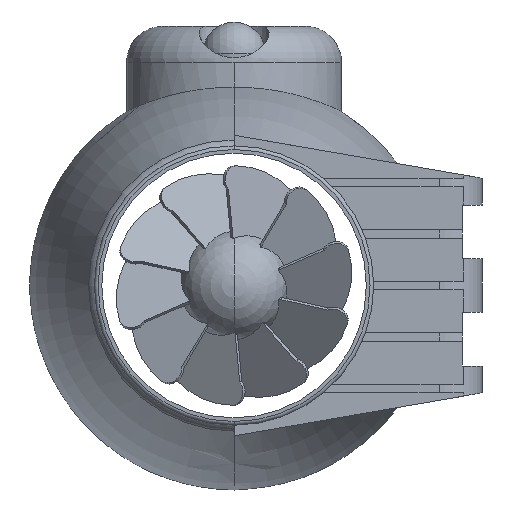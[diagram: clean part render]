
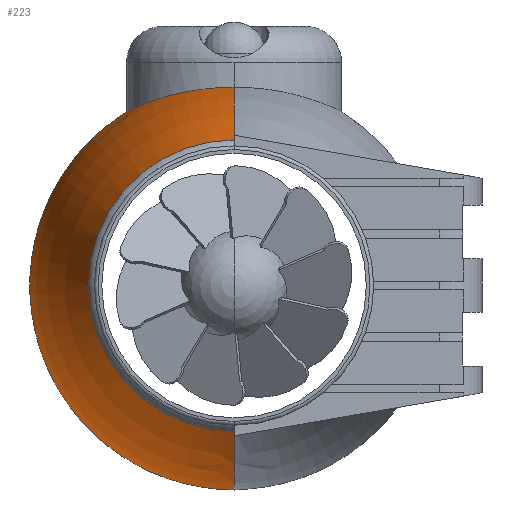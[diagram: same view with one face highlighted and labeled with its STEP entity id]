
A CAD part, left-side view. The second image highlights one B-rep face of the part: STEP entity #223.
In plain terms, the highlighted toroidal (fillet/blend) face has major radius 403.834 mm and minor radius 514.335 mm.
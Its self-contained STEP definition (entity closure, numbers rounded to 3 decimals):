
#223=ADVANCED_FACE('',(#623),#624,.T.);
#623=FACE_OUTER_BOUND('',#1212,.T.);
#624=TOROIDAL_SURFACE('',#1213,-403.834,514.334);
#1212=EDGE_LOOP('',(#1826,#1827,#1828,#1829,#1830,#1831,#1832,#1833));
#1213=AXIS2_PLACEMENT_3D('',#1834,#1835,#1836);
#1826=ORIENTED_EDGE('',*,*,#3671,.F.);
#1827=ORIENTED_EDGE('',*,*,#3672,.T.);
#1828=ORIENTED_EDGE('',*,*,#3673,.T.);
#1829=ORIENTED_EDGE('',*,*,#3674,.F.);
#1830=ORIENTED_EDGE('',*,*,#3666,.F.);
#1831=ORIENTED_EDGE('',*,*,#3665,.F.);
#1832=ORIENTED_EDGE('',*,*,#3675,.F.);
#1833=ORIENTED_EDGE('',*,*,#3676,.T.);
#1834=CARTESIAN_POINT('',(0.0,0.0,0.0));
#1835=DIRECTION('',(-1.0,0.0,0.));
#1836=DIRECTION('',(0.,0.0,1.0));
#3665=EDGE_CURVE('',#4419,#4422,#4423,.T.);
#3666=EDGE_CURVE('',#4422,#4424,#4425,.T.);
#3671=EDGE_CURVE('',#4432,#4433,#4434,.T.);
#3672=EDGE_CURVE('',#4432,#4435,#4436,.T.);
#3673=EDGE_CURVE('',#4435,#4437,#4438,.T.);
#3674=EDGE_CURVE('',#4424,#4437,#4439,.T.);
#3675=EDGE_CURVE('',#4440,#4419,#4441,.T.);
#3676=EDGE_CURVE('',#4440,#4433,#4442,.T.);
#4419=VERTEX_POINT('',#5530);
#4422=VERTEX_POINT('',#5533);
#4423=CIRCLE('',#5534,78.663);
#4424=VERTEX_POINT('',#5535);
#4425=CIRCLE('',#5536,78.663);
#4432=VERTEX_POINT('',#5543);
#4433=VERTEX_POINT('',#5544);
#4434=CIRCLE('',#5545,514.334);
#4435=VERTEX_POINT('',#5546);
#4436=CIRCLE('',#5547,78.663);
#4437=VERTEX_POINT('',#5548);
#4438=CIRCLE('',#5549,78.663);
#4439=CIRCLE('',#5550,514.334);
#4440=VERTEX_POINT('',#5551);
#4441=CIRCLE('',#5552,514.334);
#4442=B_SPLINE_CURVE_WITH_KNOTS('',3,(#5553,#5554,#5555,#5556,#5557,#5558,#5559,#5560,#5561,#5562,#5563,#5564,#5565,#5566,#5567,#5568,#5569,#5570,#5571,#5572,#5573,#5574,#5575,#5576,#5577,#5578,#5579,#5580,#5581,#5582,#5583,#5584,#5585,#5586,#5587,#5588,#5589,#5590,#5591,#5592,#5593,#5594,#5595,#5596,#5597,#5598,#5599,#5600,#5601,#5602,#5603,#5604,#5605,#5606,#5607,#5608,#5609,#5610),.UNSPECIFIED.,.F.,.F.,(4,3,3,3,3,3,3,3,3,3,3,3,3,3,3,3,3,3,3,4),(-185.079,-174.942,-168.82,-157.966,-150.418,-138.395,-127.341,-111.424,-105.042,-98.882,-89.816,-83.556,-73.998,-61.856,-47.893,-35.233,-23.073,-15.223,-5.533,-0.0),.UNSPECIFIED.);
#5530=CARTESIAN_POINT('',(-178.146,0.,78.663));
#5533=CARTESIAN_POINT('',(-178.146,78.663,0.));
#5534=AXIS2_PLACEMENT_3D('',#7323,#7324,#7325);
#5535=CARTESIAN_POINT('',(-178.146,0.,-78.663));
#5536=AXIS2_PLACEMENT_3D('',#7326,#7327,#7328);
#5543=CARTESIAN_POINT('',(178.146,0.,78.663));
#5544=CARTESIAN_POINT('',(58.08,0.0,107.21));
#5545=AXIS2_PLACEMENT_3D('',#7338,#7339,#7340);
#5546=CARTESIAN_POINT('',(178.146,78.663,0.));
#5547=AXIS2_PLACEMENT_3D('',#7341,#7342,#7343);
#5548=CARTESIAN_POINT('',(178.146,0.,-78.663));
#5549=AXIS2_PLACEMENT_3D('',#7344,#7345,#7346);
#5550=AXIS2_PLACEMENT_3D('',#7347,#7348,#7349);
#5551=CARTESIAN_POINT('',(-58.08,0.,107.21));
#5552=AXIS2_PLACEMENT_3D('',#7350,#7351,#7352);
#5553=CARTESIAN_POINT('',(-58.08,0.,107.21));
#5554=CARTESIAN_POINT('',(-58.08,3.378,107.21));
#5555=CARTESIAN_POINT('',(-57.784,6.754,107.083));
#5556=CARTESIAN_POINT('',(-57.2,10.07,106.836));
#5557=CARTESIAN_POINT('',(-56.848,12.073,106.687));
#5558=CARTESIAN_POINT('',(-56.39,14.055,106.494));
#5559=CARTESIAN_POINT('',(-55.833,15.998,106.263));
#5560=CARTESIAN_POINT('',(-54.846,19.442,105.854));
#5561=CARTESIAN_POINT('',(-53.547,22.773,105.322));
#5562=CARTESIAN_POINT('',(-51.958,25.955,104.7));
#5563=CARTESIAN_POINT('',(-50.853,28.167,104.267));
#5564=CARTESIAN_POINT('',(-49.607,30.306,103.79));
#5565=CARTESIAN_POINT('',(-48.236,32.351,103.285));
#5566=CARTESIAN_POINT('',(-46.051,35.608,102.481));
#5567=CARTESIAN_POINT('',(-43.544,38.632,101.602));
#5568=CARTESIAN_POINT('',(-40.764,41.371,100.716));
#5569=CARTESIAN_POINT('',(-38.208,43.889,99.901));
#5570=CARTESIAN_POINT('',(-35.42,46.17,99.079));
#5571=CARTESIAN_POINT('',(-32.436,48.179,98.305));
#5572=CARTESIAN_POINT('',(-28.139,51.071,97.19));
#5573=CARTESIAN_POINT('',(-23.449,53.394,96.177));
#5574=CARTESIAN_POINT('',(-18.477,55.062,95.421));
#5575=CARTESIAN_POINT('',(-16.484,55.731,95.117));
#5576=CARTESIAN_POINT('',(-14.447,56.294,94.856));
#5577=CARTESIAN_POINT('',(-12.384,56.744,94.644));
#5578=CARTESIAN_POINT('',(-10.393,57.179,94.439));
#5579=CARTESIAN_POINT('',(-8.373,57.51,94.28));
#5580=CARTESIAN_POINT('',(-6.337,57.733,94.173));
#5581=CARTESIAN_POINT('',(-3.339,58.062,94.014));
#5582=CARTESIAN_POINT('',(-0.322,58.157,93.968));
#5583=CARTESIAN_POINT('',(2.693,58.018,94.035));
#5584=CARTESIAN_POINT('',(4.775,57.921,94.082));
#5585=CARTESIAN_POINT('',(6.848,57.712,94.183));
#5586=CARTESIAN_POINT('',(8.899,57.394,94.335));
#5587=CARTESIAN_POINT('',(12.031,56.909,94.567));
#5588=CARTESIAN_POINT('',(15.12,56.166,94.919));
#5589=CARTESIAN_POINT('',(18.111,55.184,95.366));
#5590=CARTESIAN_POINT('',(21.911,53.937,95.933));
#5591=CARTESIAN_POINT('',(25.565,52.301,96.653));
#5592=CARTESIAN_POINT('',(28.995,50.324,97.456));
#5593=CARTESIAN_POINT('',(32.94,48.052,98.379));
#5594=CARTESIAN_POINT('',(36.596,45.327,99.41));
#5595=CARTESIAN_POINT('',(39.892,42.212,100.441));
#5596=CARTESIAN_POINT('',(42.881,39.388,101.376));
#5597=CARTESIAN_POINT('',(45.568,36.248,102.308));
#5598=CARTESIAN_POINT('',(47.901,32.845,103.162));
#5599=CARTESIAN_POINT('',(50.142,29.576,103.983));
#5600=CARTESIAN_POINT('',(52.06,26.059,104.732));
#5601=CARTESIAN_POINT('',(53.6,22.368,105.351));
#5602=CARTESIAN_POINT('',(54.594,19.985,105.75));
#5603=CARTESIAN_POINT('',(55.434,17.526,106.096));
#5604=CARTESIAN_POINT('',(56.106,15.014,106.376));
#5605=CARTESIAN_POINT('',(56.936,11.913,106.722));
#5606=CARTESIAN_POINT('',(57.51,8.733,106.967));
#5607=CARTESIAN_POINT('',(57.817,5.522,107.098));
#5608=CARTESIAN_POINT('',(57.992,3.688,107.172));
#5609=CARTESIAN_POINT('',(58.08,1.844,107.21));
#5610=CARTESIAN_POINT('',(58.08,0.0,107.21));
#7323=CARTESIAN_POINT('',(-178.146,0.0,0.));
#7324=DIRECTION('',(-1.0,0.0,0.));
#7325=DIRECTION('',(0.0,1.0,0.0));
#7326=CARTESIAN_POINT('',(-178.146,0.0,0.));
#7327=DIRECTION('',(-1.0,0.0,0.));
#7328=DIRECTION('',(0.0,1.0,0.0));
#7338=CARTESIAN_POINT('',(0.,0.,-403.834));
#7339=DIRECTION('',(0.,-1.0,0.));
#7340=DIRECTION('',(0.,0.,1.0));
#7341=CARTESIAN_POINT('',(178.146,0.0,0.));
#7342=DIRECTION('',(-1.0,0.0,0.));
#7343=DIRECTION('',(0.0,1.0,0.0));
#7344=CARTESIAN_POINT('',(178.146,0.0,0.));
#7345=DIRECTION('',(-1.0,0.0,0.));
#7346=DIRECTION('',(0.0,1.0,0.0));
#7347=CARTESIAN_POINT('',(0.,0.,403.834));
#7348=DIRECTION('',(0.,-1.0,0.));
#7349=DIRECTION('',(0.,0.,-1.0));
#7350=CARTESIAN_POINT('',(0.,0.,-403.834));
#7351=DIRECTION('',(0.,-1.0,0.));
#7352=DIRECTION('',(0.,0.,1.0));
